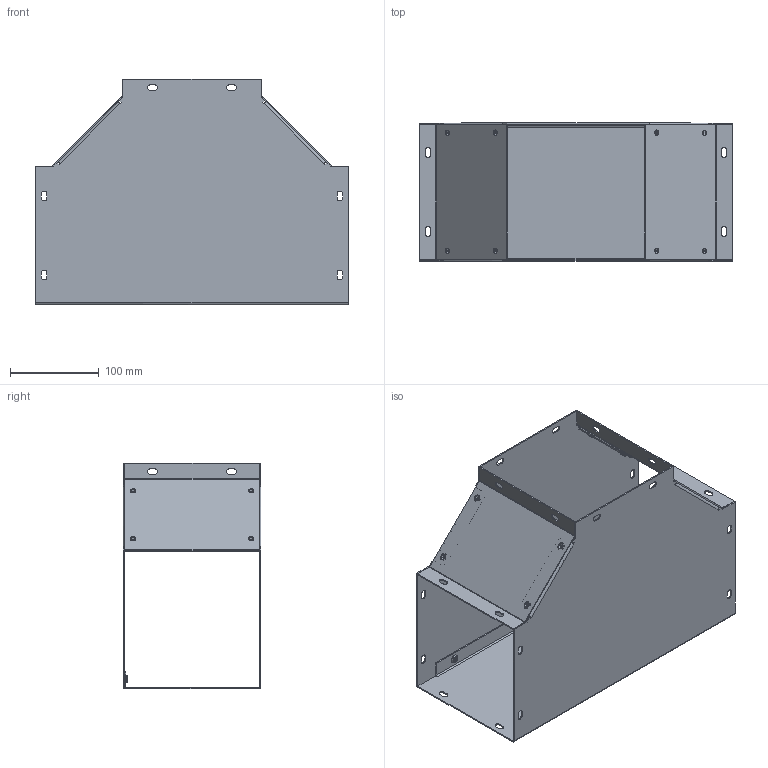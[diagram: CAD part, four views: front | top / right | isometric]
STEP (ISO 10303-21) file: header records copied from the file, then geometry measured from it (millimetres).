
FILE_DESCRIPTION(( 'STEP AP214 file generated by I-DEAS Master Series'),'2;1');
FILE_NAME('D:\A00506\f66t.stp','2003-01-23T11:18:04',('A00506'),( 'unspecified'),'I-DEAS Master Series 7m2 : Design', 'I-DEAS Master Series 7m2 : Design','unspecified');
FILE_SCHEMA(('AUTOMOTIVE_DESIGN_CC2 { 1 2 10303 214 -1 1 5 3 }'));
Length unit declared in the file: inch
Products named in the file (4): f66t; 87571170; 87571990; 87571972
Assembly tree (4 placements, depth 2):
  f66t
    87571170  x2
    87571990
    87571972
Bounding box: 351.79 x 155.07 x 254 mm (x, y, z)
Volume: 364069.5 mm3; surface area: 528077.9 mm2
Topology: 4 solids, 4 shells, 316 faces, 794 edges, 496 vertices
Faces by surface type: bspline 316
Entity records: 8741 total; most frequent: CARTESIAN_POINT 4473, ORIENTED_EDGE 1380, EDGE_CURVE 690, VERTEX_POINT 432, QUASI_UNIFORM_CURVE 378, EDGE_LOOP 356, FACE_OUTER_BOUND 274, ADVANCED_FACE 274
